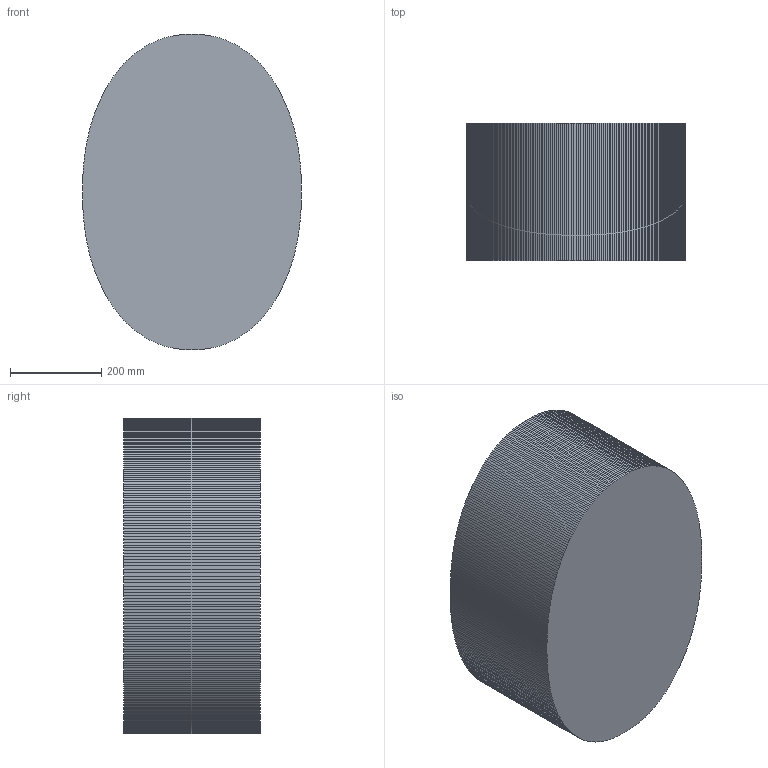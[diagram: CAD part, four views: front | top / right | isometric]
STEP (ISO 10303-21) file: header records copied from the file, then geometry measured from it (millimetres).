
FILE_DESCRIPTION(('AVO Performance Horse - montaje de la cincha (B-rep poliedrico)'),'2;1');
FILE_NAME('REF_torax','2026-11-15T12:00:00',('AVO Performance Horse'),('AVO Performance Horse'),'avo_cad.py','avo_cad.py (numpy)','');
FILE_SCHEMA(('AUTOMOTIVE_DESIGN { 1 0 10303 214 1 1 1 1 }'));
Length unit declared in the file: millimetre
Products named in the file (1): REF_torax
Bounding box: 480 x 300 x 691.7 mm (x, y, z)
Volume: 80326438.8 mm3; surface area: 1099502.5 mm2
Topology: 1 solids, 1 shells, 362 faces, 1080 edges, 720 vertices
Faces by surface type: plane 362
Entity records: 9400 total; most frequent: ORIENTED_EDGE 2160, VECTOR 1080, LINE 1080, EDGE_CURVE 1080, DIRECTION 725, CARTESIAN_POINT 721, VERTEX_POINT 720, AXIS2_PLACEMENT_3D 363
